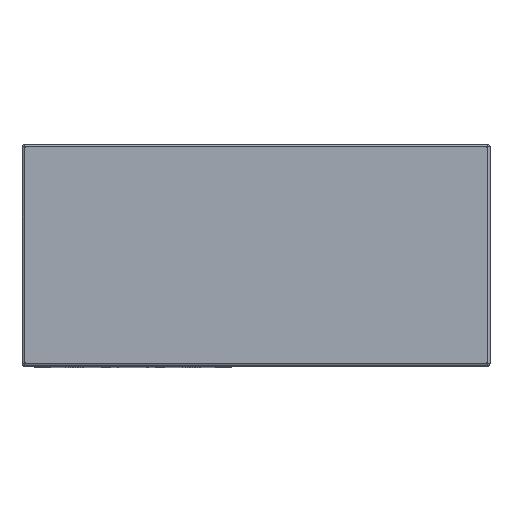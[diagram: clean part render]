
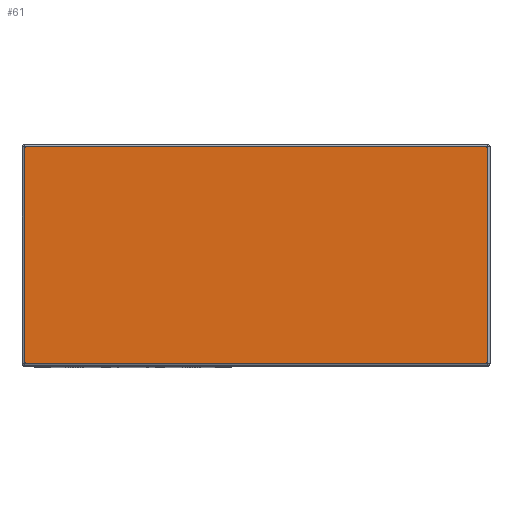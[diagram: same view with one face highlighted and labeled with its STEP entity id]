
A CAD part, top view. The second image highlights one B-rep face of the part: STEP entity #61.
In plain terms, the highlighted planar face has unit normal (0, 0, 1).
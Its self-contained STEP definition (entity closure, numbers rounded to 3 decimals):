
#61 = ADVANCED_FACE ( 'NONE', ( #31729 ), #28879, .T. ) ;
#785 = DIRECTION ( 'NONE',  ( 0., 1., 0. ) ) ;
#2749 = DIRECTION ( 'NONE',  ( 1., 0., 0. ) ) ;
#3870 = CARTESIAN_POINT ( 'NONE',  ( 144., -44., 371. ) ) ;
#4022 = LINE ( 'NONE', #31155, #31089 ) ;
#5829 = DIRECTION ( 'NONE',  ( -1., 0., 0. ) ) ;
#6608 = VERTEX_POINT ( 'NONE', #18477 ) ;
#7935 = CARTESIAN_POINT ( 'NONE',  ( 0., 0., 371. ) ) ;
#9076 = AXIS2_PLACEMENT_3D ( 'NONE', #7935, #18494, #2749 ) ;
#11861 = EDGE_CURVE ( 'NONE', #12340, #32035, #25607, .T. ) ;
#12340 = VERTEX_POINT ( 'NONE', #3870 ) ;
#13340 = EDGE_LOOP ( 'NONE', ( #21558, #30070, #32663, #17594 ) ) ;
#13553 = EDGE_CURVE ( 'NONE', #25137, #12340, #4022, .T. ) ;
#13745 = EDGE_CURVE ( 'NONE', #32035, #6608, #19213, .T. ) ;
#13802 = EDGE_CURVE ( 'NONE', #6608, #25137, #17550, .T. ) ;
#13947 = CARTESIAN_POINT ( 'NONE',  ( -44., -45., 371. ) ) ;
#16732 = VECTOR ( 'NONE', #29656, 1000. ) ;
#17550 = LINE ( 'NONE', #13947, #16732 ) ;
#17586 = CARTESIAN_POINT ( 'NONE',  ( 144., 44., 371. ) ) ;
#17594 = ORIENTED_EDGE ( 'NONE', *, *, #13802, .T. ) ;
#17827 = VECTOR ( 'NONE', #785, 1000. ) ;
#18477 = CARTESIAN_POINT ( 'NONE',  ( -44., 44., 371. ) ) ;
#18494 = DIRECTION ( 'NONE',  ( 0., 0., 1. ) ) ;
#19213 = LINE ( 'NONE', #32082, #20833 ) ;
#20726 = DIRECTION ( 'NONE',  ( 1., 0., 0. ) ) ;
#20833 = VECTOR ( 'NONE', #5829, 1000. ) ;
#21558 = ORIENTED_EDGE ( 'NONE', *, *, #13553, .T. ) ;
#25137 = VERTEX_POINT ( 'NONE', #28608 ) ;
#25607 = LINE ( 'NONE', #26917, #17827 ) ;
#26917 = CARTESIAN_POINT ( 'NONE',  ( 144., 45., 371. ) ) ;
#28608 = CARTESIAN_POINT ( 'NONE',  ( -44., -44., 371. ) ) ;
#28879 = PLANE ( 'NONE',  #9076 ) ;
#29656 = DIRECTION ( 'NONE',  ( 0., -1., 0. ) ) ;
#30070 = ORIENTED_EDGE ( 'NONE', *, *, #11861, .T. ) ;
#31089 = VECTOR ( 'NONE', #20726, 1000. ) ;
#31155 = CARTESIAN_POINT ( 'NONE',  ( 145., -44., 371. ) ) ;
#31729 = FACE_OUTER_BOUND ( 'NONE', #13340, .T. ) ;
#32035 = VERTEX_POINT ( 'NONE', #17586 ) ;
#32082 = CARTESIAN_POINT ( 'NONE',  ( -45., 44., 371. ) ) ;
#32663 = ORIENTED_EDGE ( 'NONE', *, *, #13745, .T. ) ;
